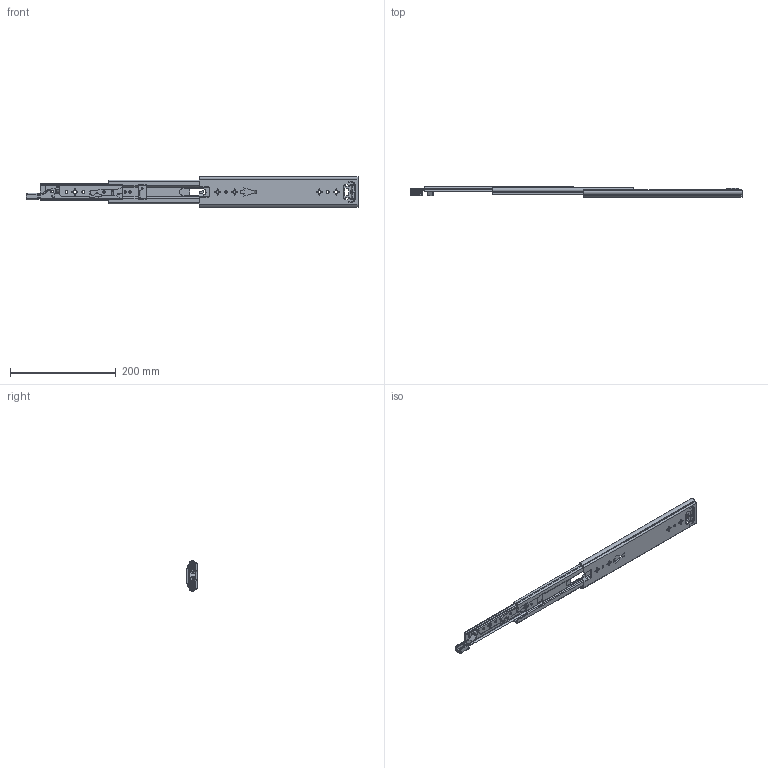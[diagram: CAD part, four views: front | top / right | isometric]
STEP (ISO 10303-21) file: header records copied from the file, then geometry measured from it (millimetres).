
FILE_DESCRIPTION((''),'2;1');
FILE_NAME('KP-57-01ZUZHUANGTU-12_ASM','2023-03-30T',('jishu015'),(''),'PRO/ENGINEER BY PARAMETRIC TECHNOLOGY CORPORATION, 2010280','PRO/ENGINEER BY PARAMETRIC TECHNOLOGY CORPORATION, 2010280','');
FILE_SCHEMA(('CONFIG_CONTROL_DESIGN'));
Length unit declared in the file: millimetre
Products named in the file (22): KP-57-01WEIKE-20____; 1057WEIJIAO____________________; WAIKE___________________ASM; KP-57-01ZHONGGUI-26_______; ZHONGGUIPEIJIAN-20____; ZHONGGUISUOKOU-18___; KP-57-01ZHONGGUI-26________ASM; 1057XIAOZHUJIA11__; 1057-5-6GANZHU1__; 1057XIAOZHUJIA-14GE26________ASM; KP-57-01NEIGUI-22_____; PJ-57-08__________________; DIAOPIAN-11__________________; 50XINSUOKOU-1__________________; TANHUANG__________________; 1053-3SBANJI122________________; JIAO11________________; KP-57-01NEIGUI-22______ASM; 1053ZHUTIAO-275_______; 53-5-6GANZHU1____; 1053ZHUTIAO-175MM111____ASM; KP-57-01ZUZHUANGTU-12_ASM
Assembly tree (39 placements, depth 3):
  KP-57-01ZUZHUANGTU-12_ASM
    WAIKE___________________ASM
      KP-57-01WEIKE-20____
      1057WEIJIAO____________________
    KP-57-01ZHONGGUI-26________ASM
      KP-57-01ZHONGGUI-26_______
      ZHONGGUIPEIJIAN-20____
      ZHONGGUISUOKOU-18___
    1057XIAOZHUJIA-14GE26________ASM
      1057XIAOZHUJIA11__
      1057-5-6GANZHU1__  x16
    KP-57-01NEIGUI-22______ASM
      KP-57-01NEIGUI-22_____
      PJ-57-08__________________
      DIAOPIAN-11__________________
      50XINSUOKOU-1__________________
      TANHUANG__________________
      1053-3SBANJI122________________
      JIAO11________________
    1053ZHUTIAO-175MM111____ASM  x2
      1053ZHUTIAO-275_______
      53-5-6GANZHU1____
Bounding box: 626.92 x 19 x 57.67 mm (x, y, z)
Volume: 129582.3 mm3; surface area: 138250 mm2
Topology: 39 solids, 39 shells, 1384 faces, 3879 edges, 2452 vertices
Faces by surface type: plane 615, cylinder 552, bspline 70, sphere 55, cone 44, torus 25, extrusion 23
Entity records: 47263 total; most frequent: CARTESIAN_POINT 12580, ORIENTED_EDGE 7326, DIRECTION 7090, EDGE_CURVE 3663, AXIS2_PLACEMENT_3D 2443, VERTEX_POINT 2360, VECTOR 2204, LINE 2181
